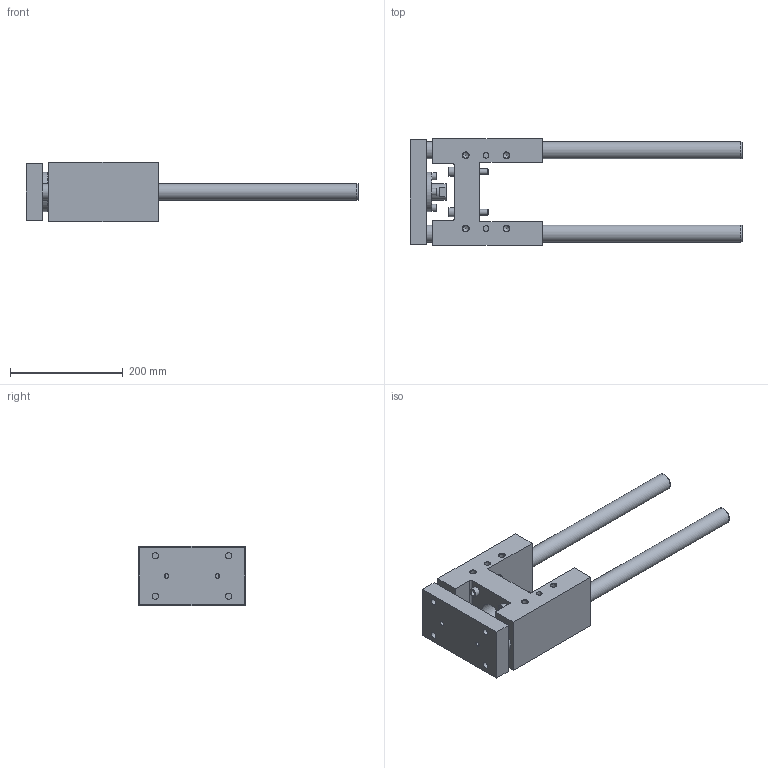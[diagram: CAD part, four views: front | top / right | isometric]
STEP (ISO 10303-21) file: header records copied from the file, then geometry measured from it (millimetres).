
FILE_DESCRIPTION( ( 'STEP AP214' ), '1' );
FILE_NAME( 'U:/Etudes/Top Solid/BIBLIO 3D AVM/TOP/PNEUMATIQUE/GUIDAGES/Type 32 (en H)/R_Renforcée/328R6130.step', '2005-05-27T09:11:38', ( ' ' ), ( ' ' ), 'XStep 1.0', ' ', ' ' );
FILE_SCHEMA( ( 'automotive_design' ) );
Length unit declared in the file: metre
Products named in the file (2): 1; 2
Bounding box: 589 x 189 x 105 mm (x, y, z)
Volume: 3225888.6 mm3; surface area: 391975.7 mm2
Topology: 2 solids, 7 shells, 209 faces, 472 edges, 313 vertices
Faces by surface type: plane 118, cylinder 70, cone 21
Full cylindrical faces by diameter (mm): 8 x10, 8.5 x4, 10 x10, 10.106 x12, 11 x8, 13 x4, 16 x4, 18 x4, 18.376 x2, 29 x1, 30 x4, 32 x1, 42 x1, 45 x2, 70 x1
Entity records: 7075 total; most frequent: CARTESIAN_POINT 1101, DIRECTION 894, ORIENTED_EDGE 690, EDGE_LOOP 362, AXIS2_PLACEMENT_3D 346, EDGE_CURVE 345, VERTEX_POINT 281, FACE_OUTER_BOUND 277
